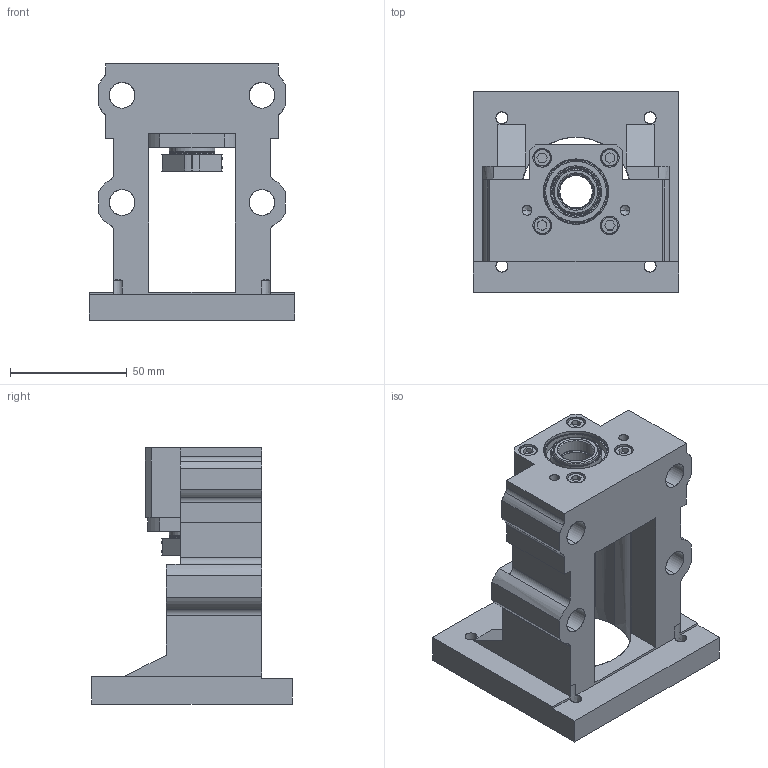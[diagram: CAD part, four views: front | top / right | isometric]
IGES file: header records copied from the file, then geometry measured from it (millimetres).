
Start section: SolidWorks IGES file using analytic representation for surfaces
Global section: file name: C:\Users\117\Desktop\MBCE15M-E轉造級.IGS,15; native system: HSolidWorks 2018; preprocessor: SolidWorks 2018; author: 117; date: 230112.132657; units: millimetre
Bounding box: 88 x 86 x 110 mm (x, y, z)
Surface area: 84635.9 mm2 (no closed solid volume)
Topology: 0 solids, 0 shells, 572 faces, 10418 edges, 10348 vertices
Faces by surface type: revolution 322, bspline 250
